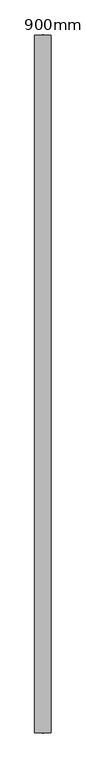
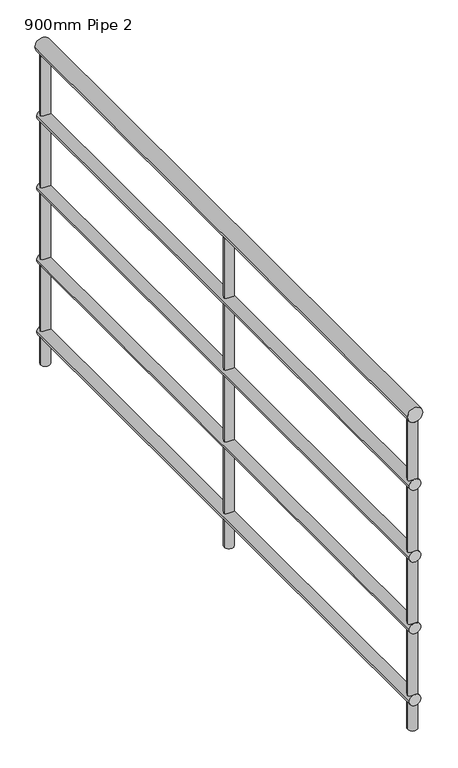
"""IFC4 building model written with IfcOpenShell, lengths in millimetres: railing geometry, 900mm Pipe 2."""

from ifc_helpers import new_model, si_unit, point, frame, frame_2d, origin, origin_with_axes, place, context, project, spatial, circle_curve, trimmed, segment, composite_curve, outline, extrude, source, transform, mapped, element, save


def railing_900mm_pipe_2_fe6058d7(model_context):
    return source(origin(), model_context, "Body", "SweptSolid", [
        extrude(outline(composite_curve([segment(trimmed(circle_curve(frame_2d((880.0, -4986.8266822)), 20.0), [point((880.0, -4966.8266822))], [point((880.0, -5006.8266822))], False, "CARTESIAN"), True, "CONTINUOUS"), segment(trimmed(circle_curve(frame_2d((880.0, -4986.8266822)), 20.0), [point((880.0, -5006.8266822))], [point((880.0, -4966.8266822))], False, "CARTESIAN"), True, "CONTINUOUS")], self_intersect=False)), frame((0.0, 4613.2328473, 0.0), z_axis=(0.0, 1.0, 0.0), x_axis=(0.0, 0.0, 1.0)), (0.0, 0.0, 1.0), 1700.0),
        extrude(outline(composite_curve([segment(trimmed(circle_curve(frame_2d((685.0, -4986.8266822)), 15.0), [point((685.0, -4971.8266822))], [point((685.0, -5001.8266822))], False, "CARTESIAN"), True, "CONTINUOUS"), segment(trimmed(circle_curve(frame_2d((685.0, -4986.8266822)), 15.0), [point((685.0, -5001.8266822))], [point((685.0, -4971.8266822))], False, "CARTESIAN"), True, "CONTINUOUS")], self_intersect=False)), frame((0.0, 4613.2328473, 0.0), z_axis=(0.0, 1.0, 0.0), x_axis=(0.0, 0.0, 1.0)), (0.0, 0.0, 1.0), 1700.0),
        extrude(outline(composite_curve([segment(trimmed(circle_curve(frame_2d((485.0, -4986.8266822)), 15.0), [point((485.0, -4971.8266822))], [point((485.0, -5001.8266822))], False, "CARTESIAN"), True, "CONTINUOUS"), segment(trimmed(circle_curve(frame_2d((485.0, -4986.8266822)), 15.0), [point((485.0, -5001.8266822))], [point((485.0, -4971.8266822))], False, "CARTESIAN"), True, "CONTINUOUS")], self_intersect=False)), frame((0.0, 4613.2328473, 0.0), z_axis=(0.0, 1.0, 0.0), x_axis=(0.0, 0.0, 1.0)), (0.0, 0.0, 1.0), 1700.0),
        extrude(outline(composite_curve([segment(trimmed(circle_curve(frame_2d((285.0, -4986.8266822)), 15.0), [point((285.0, -4971.8266822))], [point((285.0, -5001.8266822))], False, "CARTESIAN"), True, "CONTINUOUS"), segment(trimmed(circle_curve(frame_2d((285.0, -4986.8266822)), 15.0), [point((285.0, -5001.8266822))], [point((285.0, -4971.8266822))], False, "CARTESIAN"), True, "CONTINUOUS")], self_intersect=False)), frame((0.0, 4613.2328473, 0.0), z_axis=(0.0, 1.0, 0.0), x_axis=(0.0, 0.0, 1.0)), (0.0, 0.0, 1.0), 1700.0),
        extrude(outline(composite_curve([segment(trimmed(circle_curve(frame_2d((85.0, -4986.8266822)), 15.0), [point((85.0, -4971.8266822))], [point((85.0, -5001.8266822))], False, "CARTESIAN"), True, "CONTINUOUS"), segment(trimmed(circle_curve(frame_2d((85.0, -4986.8266822)), 15.0), [point((85.0, -5001.8266822))], [point((85.0, -4971.8266822))], False, "CARTESIAN"), True, "CONTINUOUS")], self_intersect=False)), frame((0.0, 4613.2328473, 0.0), z_axis=(0.0, 1.0, 0.0), x_axis=(0.0, 0.0, 1.0)), (0.0, 0.0, 1.0), 1700.0),
        extrude(outline(composite_curve([segment(trimmed(circle_curve(frame_2d((-4986.8266822, 5463.2328473)), 12.5), [point((-4999.3266822, 5463.2328473))], [point((-4974.3266822, 5463.2328473))], False, "CARTESIAN"), True, "CONTINUOUS"), segment(trimmed(circle_curve(frame_2d((-4986.8266822, 5463.2328473)), 12.5), [point((-4974.3266822, 5463.2328473))], [point((-4999.3266822, 5463.2328473))], False, "CARTESIAN"), True, "CONTINUOUS")], self_intersect=False)), origin_with_axes(), (0.0, 0.0, 1.0), 860.0),
        extrude(outline(composite_curve([segment(trimmed(circle_curve(frame_2d((-4986.8266822, 4625.4194462)), 12.5), [point((-4999.3266822, 4625.4194462))], [point((-4974.3266822, 4625.4194462))], False, "CARTESIAN"), True, "CONTINUOUS"), segment(trimmed(circle_curve(frame_2d((-4986.8266822, 4625.4194462)), 12.5), [point((-4974.3266822, 4625.4194462))], [point((-4999.3266822, 4625.4194462))], False, "CARTESIAN"), True, "CONTINUOUS")], self_intersect=False)), origin_with_axes(), (0.0, 0.0, 1.0), 860.0),
        extrude(outline(composite_curve([segment(trimmed(circle_curve(frame_2d((-4986.8266822, 6301.0462484)), 12.5), [point((-4999.3266822, 6301.0462484))], [point((-4974.3266822, 6301.0462484))], False, "CARTESIAN"), True, "CONTINUOUS"), segment(trimmed(circle_curve(frame_2d((-4986.8266822, 6301.0462484)), 12.5), [point((-4974.3266822, 6301.0462484))], [point((-4999.3266822, 6301.0462484))], False, "CARTESIAN"), True, "CONTINUOUS")], self_intersect=False)), origin_with_axes(), (0.0, 0.0, 1.0), 860.0),
    ])


if __name__ == "__main__":
    model = new_model("IFC4")
    model_context = context("Model", 3, world=origin())
    ifc_project = project(units=[si_unit("LENGTHUNIT", "METRE", prefix="MILLI")], contexts=[model_context])
    site = spatial("IfcSite", under=ifc_project)
    building = spatial("IfcBuilding", under=site)
    placement = place(None, origin())
    railing_900mm_pipe_2_shape = railing_900mm_pipe_2_fe6058d7(model_context)
    element("IfcRailing", 1, ObjectType="900mm Pipe 2", at=placement, inside=building, context=model_context, shape_type="MappedRepresentation", body=[
        mapped(railing_900mm_pipe_2_shape, transform((0.0, 0.0, 0.0), x_axis=(1.0, 0.0, 0.0), y_axis=(0.0, 1.0, 0.0), z_axis=(0.0, 0.0, 1.0))),
    ])
    save(model, "model.ifc")
